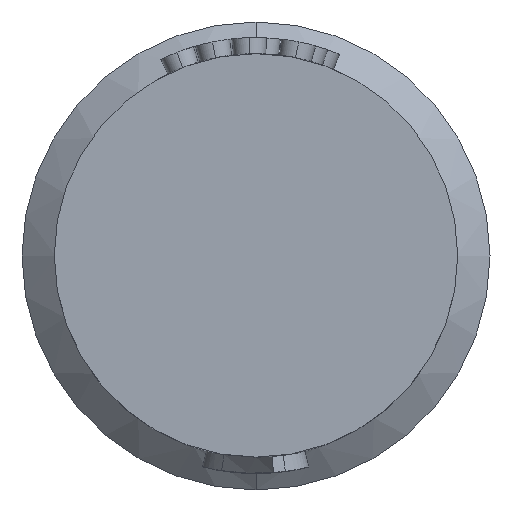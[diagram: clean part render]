
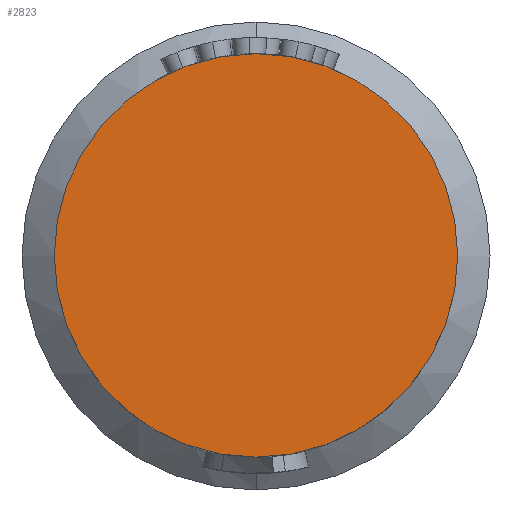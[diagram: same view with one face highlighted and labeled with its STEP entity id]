
A CAD part, top view. The second image highlights one B-rep face of the part: STEP entity #2823.
In plain terms, the highlighted planar face has unit normal (0, 0, 1).
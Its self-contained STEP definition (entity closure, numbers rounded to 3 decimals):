
#86 = AXIS2_PLACEMENT_3D ( 'NONE', #481, #730, #2031 ) ;
#133 = ORIENTED_EDGE ( 'NONE', *, *, #920, .F. ) ;
#211 = CIRCLE ( 'NONE', #3261, 2.5 ) ;
#341 = CARTESIAN_POINT ( 'NONE',  ( 0., -2.5, 4.5 ) ) ;
#481 = CARTESIAN_POINT ( 'NONE',  ( 0., 0., 4.5 ) ) ;
#604 = CARTESIAN_POINT ( 'NONE',  ( 0., 0., 4.5 ) ) ;
#695 = DIRECTION ( 'NONE',  ( 0., 0., -1. ) ) ;
#700 = VERTEX_POINT ( 'NONE', #1366 ) ;
#730 = DIRECTION ( 'NONE',  ( 0., 0., -1. ) ) ;
#746 = AXIS2_PLACEMENT_3D ( 'NONE', #604, #3197, #1297 ) ;
#920 = EDGE_CURVE ( 'NONE', #2164, #700, #211, .T. ) ;
#1297 = DIRECTION ( 'NONE',  ( 1., 0., 0. ) ) ;
#1366 = CARTESIAN_POINT ( 'NONE',  ( 0., 2.5, 4.5 ) ) ;
#2012 = CARTESIAN_POINT ( 'NONE',  ( 0., 0., 4.5 ) ) ;
#2031 = DIRECTION ( 'NONE',  ( 0., 1., 0. ) ) ;
#2164 = VERTEX_POINT ( 'NONE', #341 ) ;
#2565 = FACE_OUTER_BOUND ( 'NONE', #3941, .T. ) ;
#2620 = CIRCLE ( 'NONE', #86, 2.5 ) ;
#2823 = ADVANCED_FACE ( 'NONE', ( #2565 ), #3802, .T. ) ;
#2842 = ORIENTED_EDGE ( 'NONE', *, *, #3591, .F. ) ;
#3197 = DIRECTION ( 'NONE',  ( 0., 0., 1. ) ) ;
#3261 = AXIS2_PLACEMENT_3D ( 'NONE', #2012, #695, #3916 ) ;
#3591 = EDGE_CURVE ( 'NONE', #700, #2164, #2620, .T. ) ;
#3802 = PLANE ( 'NONE',  #746 ) ;
#3916 = DIRECTION ( 'NONE',  ( 0., 1., 0. ) ) ;
#3941 = EDGE_LOOP ( 'NONE', ( #2842, #133 ) ) ;
